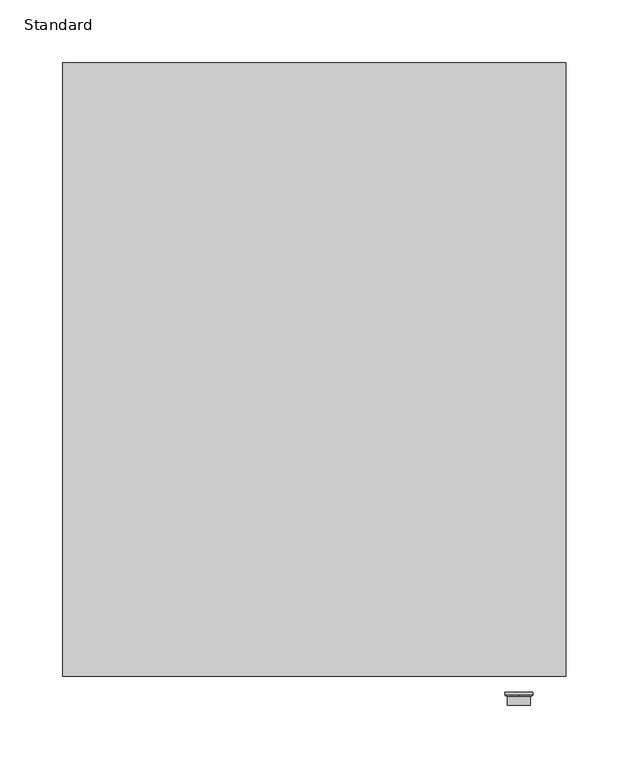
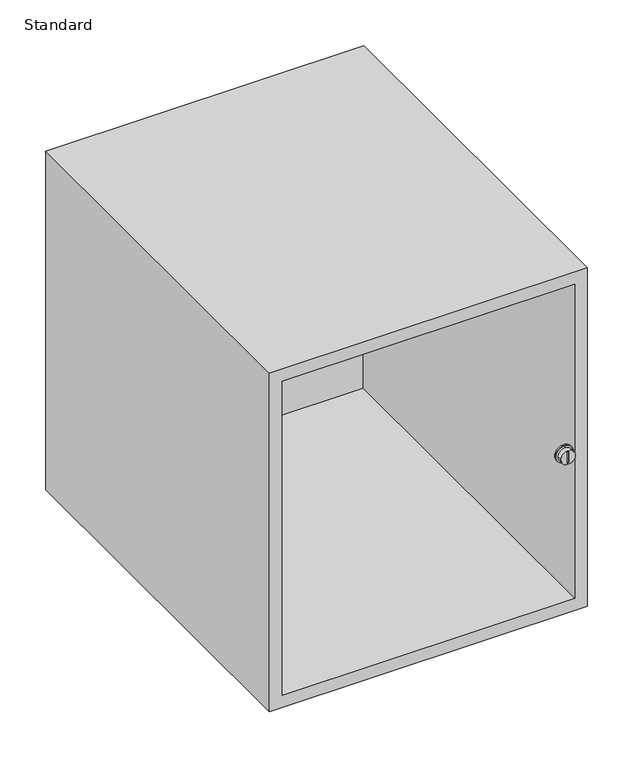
"""IFC4 building model written with IfcOpenShell, lengths in millimetres: furniture geometry, X_Locker-Duracube-Bay : Standard."""

import ifcopenshell
import ifcopenshell.guid

model = None  # the IFC model being written
_history = None  # IfcOwnerHistory: only IFC2X3 demands one
_inside = {}  # id of a spatial element -> (the spatial element, [elements in it])
_under = {}  # id of a project, library or spatial element -> (it, [spatial elements below it])
_declared = {}  # id of a project -> (the project, [libraries it declares])
_typed = {}  # id of a type object -> (the type object, [elements of that type])
_made_of = {}  # id of a material, layer set ... -> (it, [elements and type objects made of it])


def new_model(schema):
    """Start an empty IFC model of exactly this schema.

    Asked for "IFC4X3", IfcOpenShell would pick the latest addendum, in which some entities
    have other attributes; the version numbers below select the first issue.
    IFC2X3 requires an IfcOwnerHistory on every rooted entity: one is made here for all.
    """
    global model, _history
    if schema == "IFC4X3":
        model = ifcopenshell.file(schema_version=(4, 3, 0, 0))
    else:
        model = ifcopenshell.file(schema=schema)
    _inside.clear()
    _under.clear()
    _declared.clear()
    _typed.clear()
    _made_of.clear()
    _history = None
    if model.schema == "IFC2X3":
        org = make("IfcOrganization", Name="unknown")
        user = make(
            "IfcPersonAndOrganization",
            ThePerson=make("IfcPerson", FamilyName="unknown"),
            TheOrganization=org,
        )
        app = make(
            "IfcApplication",
            ApplicationDeveloper=org,
            Version="unknown",
            ApplicationFullName="unknown",
            ApplicationIdentifier="unknown",
        )
        _history = make(
            "IfcOwnerHistory",
            OwningUser=user,
            OwningApplication=app,
            ChangeAction="ADDED",
            CreationDate=0,
        )
    return model


def make(cls, **values):
    """One entity of the class cls with the attributes given. An attribute that is None is left unset."""
    return model.create_entity(
        cls, **{name: value for name, value in values.items() if value is not None}
    )


def rooted(cls, **values):
    """An entity with a GlobalId (a new one), such as an element, a storey or a relation."""
    return make(cls, GlobalId=ifcopenshell.guid.new(), OwnerHistory=_history, **values)


def si_unit(unit_type, name, prefix=None):
    """IfcSIUnit, for example si_unit("LENGTHUNIT", "METRE", prefix="MILLI")."""
    return make("IfcSIUnit", UnitType=unit_type, Prefix=prefix, Name=name)


def assignment(units):
    """IfcUnitAssignment: the units of a project."""
    return None if units is None else make("IfcUnitAssignment", Units=units)


def point(xyz):
    """IfcCartesianPoint."""
    return None if xyz is None else make("IfcCartesianPoint", Coordinates=xyz)


def direction(xyz):
    """IfcDirection."""
    return None if xyz is None else make("IfcDirection", DirectionRatios=xyz)


def frame(location, z_axis=None, x_axis=None):
    """IfcAxis2Placement3D, a coordinate frame: its origin and axes. An axis left out is left unset."""
    return make(
        "IfcAxis2Placement3D",
        Location=point(location),
        Axis=direction(z_axis),
        RefDirection=direction(x_axis),
    )


def frame_2d(location, x_axis=None):
    """IfcAxis2Placement2D, a coordinate frame in the plane: its origin and x axis."""
    return make(
        "IfcAxis2Placement2D", Location=point(location), RefDirection=direction(x_axis)
    )


def origin():
    """The frame at (0, 0, 0) with its axes left unset."""
    return frame((0.0, 0.0, 0.0))


def place(relative_to, where):
    """IfcLocalPlacement: puts the frame where relative to a parent placement (None: the world)."""
    return make(
        "IfcLocalPlacement", PlacementRelTo=relative_to, RelativePlacement=where
    )


def context(
    kind, dimensions, precision=None, world=None, true_north=None, identifier=None
):
    """IfcGeometricRepresentationContext, for example the 3D "Model" context."""
    return make(
        "IfcGeometricRepresentationContext",
        ContextIdentifier=identifier,
        ContextType=kind,
        CoordinateSpaceDimension=dimensions,
        Precision=precision,
        WorldCoordinateSystem=world,
        TrueNorth=true_north,
    )


def project(units=None, contexts=None):
    """IfcProject with its units and contexts."""
    return rooted(
        "IfcProject",
        Name="project",
        RepresentationContexts=contexts,
        UnitsInContext=assignment(units),
    )


def spatial(cls, under=None, at=None, **own):
    """A site, building, storey or space (cls), placed at a placement, below another one or the project."""
    s = rooted(cls, ObjectPlacement=at, **own)
    if under is not None:
        _under.setdefault(under.id(), (under, []))[1].append(s)
    return s


def polyline(points):
    """IfcPolyline through the points."""
    return make("IfcPolyline", Points=[point(p) for p in points])


def circle_curve(where, radius):
    """IfcCircle in the frame where."""
    return make("IfcCircle", Position=where, Radius=radius)


def ellipse_curve(where, semi_axis1, semi_axis2):
    """IfcEllipse in the frame where."""
    return make(
        "IfcEllipse", Position=where, SemiAxis1=semi_axis1, SemiAxis2=semi_axis2
    )


def trimmed(basis, trim1, trim2, sense, master):
    """IfcTrimmedCurve: the piece of a basis curve between two trims."""
    return make(
        "IfcTrimmedCurve",
        BasisCurve=basis,
        Trim1=trim1,
        Trim2=trim2,
        SenseAgreement=sense,
        MasterRepresentation=master,
    )


def segment(curve, same_sense, transition):
    """IfcCompositeCurveSegment."""
    return make(
        "IfcCompositeCurveSegment",
        Transition=transition,
        SameSense=same_sense,
        ParentCurve=curve,
    )


def composite_curve(segments, self_intersect=None):
    """IfcCompositeCurve: segments joined end to end."""
    return make("IfcCompositeCurve", Segments=segments, SelfIntersect=self_intersect)


def outline(outer, holes=None, kind="AREA"):
    """IfcArbitraryClosedProfileDef: a profile drawn as a closed curve; with holes, ...WithVoids."""
    if holes is None:
        return make("IfcArbitraryClosedProfileDef", ProfileType=kind, OuterCurve=outer)
    return make(
        "IfcArbitraryProfileDefWithVoids",
        ProfileType=kind,
        OuterCurve=outer,
        InnerCurves=holes,
    )


def extrude(swept, where, along, depth):
    """IfcExtrudedAreaSolid: the profile swept, set in the frame where, extruded along a direction by depth."""
    return make(
        "IfcExtrudedAreaSolid",
        SweptArea=swept,
        Position=where,
        ExtrudedDirection=direction(along),
        Depth=depth,
    )


def faces_of(points, faces, orient=None, outer=None):
    """IfcFace entities. A face is a list of loops; a loop is a list of indices into points, from 0.

    orient and outer hold one flag for each loop. By default every Orientation is true, the
    first loop of a face is its IfcFaceOuterBound and the others are IfcFaceBound.
    """
    made = []
    for i, loops in enumerate(faces):
        bounds = []
        for j, loop in enumerate(loops):
            is_outer = j == 0 if outer is None else outer[i][j]
            bounds.append(
                make(
                    "IfcFaceOuterBound" if is_outer else "IfcFaceBound",
                    Bound=make("IfcPolyLoop", Polygon=[points[k] for k in loop]),
                    Orientation=True if orient is None else orient[i][j],
                )
            )
        made.append(make("IfcFace", Bounds=bounds))
    return made


def faceted_brep(points, faces, orient=None, outer=None, voids=None):
    """IfcFacetedBrep: a solid bounded by flat faces; with voids (closed shells), ...WithVoids."""
    shared = [point(p) for p in points]
    hull = make("IfcClosedShell", CfsFaces=faces_of(shared, faces, orient, outer))
    if voids is None:
        return make("IfcFacetedBrep", Outer=hull)
    return make(
        "IfcFacetedBrepWithVoids",
        Outer=hull,
        Voids=[
            make(cls, CfsFaces=faces_of(shared, fs, o, b)) for cls, fs, o, b in voids
        ],
    )


def shape(context_of_items, identifier, shape_type, items):
    """IfcShapeRepresentation: the items that make up one representation, for example the "Body"."""
    return make(
        "IfcShapeRepresentation",
        ContextOfItems=context_of_items,
        RepresentationIdentifier=identifier,
        RepresentationType=shape_type,
        Items=items,
    )


def source(mapping_origin, context_of_items, identifier, shape_type, items):
    """IfcRepresentationMap: a shape defined once, which mapped items show again and again."""
    return make(
        "IfcRepresentationMap",
        MappingOrigin=mapping_origin,
        MappedRepresentation=shape(context_of_items, identifier, shape_type, items),
    )


def transform(
    local_origin,
    x_axis=None,
    y_axis=None,
    z_axis=None,
    scale=None,
    scale2=None,
    scale3=None,
    uniform=True,
):
    """IfcCartesianTransformationOperator3D, or its non-uniform kind. x_axis, y_axis, z_axis: its Axis1, 2, 3."""
    if uniform:
        return make(
            "IfcCartesianTransformationOperator3D",
            Axis1=direction(x_axis),
            Axis2=direction(y_axis),
            LocalOrigin=point(local_origin),
            Scale=scale,
            Axis3=direction(z_axis),
        )
    return make(
        "IfcCartesianTransformationOperator3DnonUniform",
        Axis1=direction(x_axis),
        Axis2=direction(y_axis),
        LocalOrigin=point(local_origin),
        Scale=scale,
        Axis3=direction(z_axis),
        Scale2=scale2,
        Scale3=scale3,
    )


def mapped(mapping_source, mapping_target):
    """IfcMappedItem: shows the shape of a source again, moved by a transform."""
    return make(
        "IfcMappedItem", MappingSource=mapping_source, MappingTarget=mapping_target
    )


def made_of(thing, what):
    """Note that an element or type object is made of a material, layer set ...; save() writes the relation."""
    if what is not None:
        _made_of.setdefault(what.id(), (what, []))[1].append(thing)
    return thing


def element(
    cls,
    number,
    at=None,
    inside=None,
    cuts=None,
    type_object=None,
    material=None,
    context=None,
    identifier="Body",
    shape_type=None,
    held_by="IfcProductDefinitionShape",
    body=None,
    shapes=None,
    **own,
):
    """One element of the class cls, such as IfcWall. Its Tag is "e" and its number.

    at: its placement. inside: the storey or other place that contains it. cuts: it is an
    opening in that element (IfcRelVoidsElement). A single representation is given by context,
    identifier, shape_type and body (its items); several are given by shapes. held_by: the class
    of the entity that holds the representations. save() writes the other relations.
    """
    e = rooted(cls, Tag="e%d" % number, ObjectPlacement=at, **own)
    if body is not None:
        shapes = [shape(context, identifier, shape_type, body)]
    if shapes is not None:
        e.Representation = make(held_by, Representations=shapes)
    if inside is not None:
        _inside.setdefault(inside.id(), (inside, []))[1].append(e)
    if cuts is not None:
        rooted(
            "IfcRelVoidsElement", RelatingBuildingElement=cuts, RelatedOpeningElement=e
        )
    if type_object is not None:
        _typed.setdefault(type_object.id(), (type_object, []))[1].append(e)
    return made_of(e, material)


def aggregate(whole, parts):
    """IfcRelAggregates: a whole, such as a stair, and the parts it consists of."""
    return rooted("IfcRelAggregates", RelatingObject=whole, RelatedObjects=parts)


def save(model, path):
    """Write the relations noted so far, then the file.

    IfcRelAggregates (storeys below a building ...), IfcRelContainedInSpatialStructure (elements
    in a storey), IfcRelDefinesByType, IfcRelAssociatesMaterial and IfcRelDeclares: one each for
    every whole, place, type object, material and project.
    """
    for whole, parts in _under.values():
        aggregate(whole, parts)
    for where, things in _inside.values():
        rooted(
            "IfcRelContainedInSpatialStructure",
            RelatedElements=things,
            RelatingStructure=where,
        )
    for kind, things in _typed.values():
        rooted("IfcRelDefinesByType", RelatedObjects=things, RelatingType=kind)
    for what, things in _made_of.values():
        rooted("IfcRelAssociatesMaterial", RelatedObjects=things, RelatingMaterial=what)
    for by, libraries in _declared.values():
        rooted("IfcRelDeclares", RelatingContext=by, RelatedDefinitions=libraries)
    model.write(path)


def plane_surface(at):
    """IfcPlane: the flat surface through the origin of the frame at, square to its z axis."""
    return make("IfcPlane", Position=at)


def revolved_surface(curve, axis_point, axis_direction):
    """IfcSurfaceOfRevolution: the curve turned about the line through axis_point along axis_direction."""
    return make(
        "IfcSurfaceOfRevolution",
        SweptCurve=make("IfcArbitraryOpenProfileDef", ProfileType="CURVE", Curve=curve),
        AxisPosition=make("IfcAxis1Placement", Location=point(axis_point), Axis=direction(axis_direction)),
    )


def advanced_brep(points, edges, surfaces, faces):
    """IfcAdvancedBrep: a solid bounded by faces that lie on surfaces and meet in shared edges.

    An edge is (start, end): straight between two places in points (the first is 0);
    or (start, end, curve); or (start, end, curve, False) where it runs against its curve.
    A face is (place in surfaces, loops), or (place, loops, False) where it looks against
    its surface's normal. A loop lists edges by number (the first is 1), with a minus sign
    where the edge is run from its end to its start. The first loop is the outer one.
    """
    corners = [point(p) for p in points]
    vertices = [make("IfcVertexPoint", VertexGeometry=c) for c in corners]
    made = []
    for start, end, *more in edges:
        made.append(
            make(
                "IfcEdgeCurve",
                EdgeStart=vertices[start],
                EdgeEnd=vertices[end],
                EdgeGeometry=more[0] if more else make("IfcPolyline", Points=[corners[start], corners[end]]),
                SameSense=more[1] if len(more) > 1 else True,
            )
        )
    hull = []
    for where, loops, *sense in faces:
        bounds = []
        for j, loop in enumerate(loops):
            ring = [make("IfcOrientedEdge", EdgeElement=made[abs(k) - 1], Orientation=k > 0) for k in loop]
            bounds.append(
                make(
                    "IfcFaceOuterBound" if j == 0 else "IfcFaceBound",
                    Bound=make("IfcEdgeLoop", EdgeList=ring),
                    Orientation=True,
                )
            )
        hull.append(make("IfcAdvancedFace", Bounds=bounds, FaceSurface=surfaces[where], SameSense=sense[0] if sense else True))
    return make("IfcAdvancedBrep", Outer=make("IfcClosedShell", CfsFaces=hull))


def standard_f60cbfea(model_context):
    return source(origin(), model_context, "Body", "SolidModel", [
        extrude(outline(composite_curve([segment(trimmed(circle_curve(frame_2d((225.0, 207.2003264)), 11.0), [point((225.0, 196.2003264))], [point((225.0, 218.2003264))], False, "CARTESIAN"), True, "CONTINUOUS"), segment(trimmed(circle_curve(frame_2d((225.0, 207.2003264)), 11.0), [point((225.0, 218.2003264))], [point((225.0, 196.2003264))], False, "CARTESIAN"), True, "CONTINUOUS")], self_intersect=False)), frame((0.0, -502.0, 0.0), z_axis=(0.0, 1.0, 0.0), x_axis=(0.0, 0.0, 1.0)), (0.0, 0.0, 1.0), 2.0),
        advanced_brep(
        [(207.2003264, -503.0, 216.0), (207.2003264, -503.0, 234.0), (207.2003264, -502.0, 236.0), (207.2003264, -502.0, 214.0), (207.2003264, -502.0, 216.0), (207.2003264, -502.0, 234.0)],
        [
            (0, 1, circle_curve(frame((207.2003264, -503.0, 225.0), z_axis=(0.0, 1.0, 0.0), x_axis=(0.0, 0.0, 1.0)), 9.0)),
            (1, 2, ellipse_curve(frame((207.2003264, -502.0, 234.0), z_axis=(-1.0, 0.0, 0.0), x_axis=(0.0, 0.0, 1.0)), 2.0, 1.0)),
            (2, 3, circle_curve(frame((207.2003264, -502.0, 225.0), z_axis=(0.0, -1.0, 0.0), x_axis=(0.0, 0.0, 1.0)), 11.0)),
            (3, 0, ellipse_curve(frame((207.2003264, -502.0, 216.0), z_axis=(-1.0, 0.0, 0.0), x_axis=(0.0, 0.0, -1.0)), 2.0, 1.0)),
            (1, 0, circle_curve(frame((207.2003264, -503.0, 225.0), z_axis=(0.0, 1.0, 0.0), x_axis=(0.0, 0.0, 1.0)), 9.0)),
            (3, 2, circle_curve(frame((207.2003264, -502.0, 225.0), z_axis=(0.0, -1.0, 0.0), x_axis=(0.0, 0.0, 1.0)), 11.0)),
            (4, 5, circle_curve(frame((207.2003264, -502.0, 225.0), z_axis=(0.0, 1.0, 0.0), x_axis=(0.0, 0.0, 1.0)), 9.0)),
            (5, 1),
            (0, 4),
            (5, 4, circle_curve(frame((207.2003264, -502.0, 225.0), z_axis=(0.0, 1.0, 0.0), x_axis=(0.0, 0.0, 1.0)), 9.0)),
            (2, 5),
            (4, 3),
        ],
        [
            revolved_surface(trimmed(ellipse_curve(frame((207.2003264, -502.0, 234.0), z_axis=(1.0, 0.0, 0.0), x_axis=(0.0, 0.0, 1.0)), 2.0, 1.0), [point((207.2003264, -502.0, 236.0))], [point((207.2003264, -503.0, 234.0))], True, "CARTESIAN"), (207.2003264, -502.0, 225.0), (0.0, -1.0, 0.0)),
            revolved_surface(polyline([(207.2003264, -503.0, 234.0), (207.2003264, -502.0, 234.0)]), (207.2003264, -502.0, 225.0), (0.0, -1.0, 0.0)),
            plane_surface(frame((207.2003264, -502.0, 225.0), z_axis=(0.0, 1.0, 0.0), x_axis=(0.0, 0.0, 1.0))),
        ],
        [
            (0, [[1, 2, 3, 4]]),
            (0, [[5, -4, 6, -2]]),
            (1, [[7, 8, -1, 9]]),
            (1, [[10, -9, -5, -8]]),
            (2, [[-3, 11, -7, 12]]),
            (2, [[-6, -12, -10, -11]]),
        ],
    ),
        extrude(outline(polyline([(208.2003264, -509.0), (206.2003264, -509.0), (206.2003264, -507.0), (208.2003264, -507.0), (208.2003264, -509.0)])), frame((0.0, 0.0, 218.0), z_axis=(0.0, 0.0, 1.0), x_axis=(1.0, 0.0, 0.0)), (0.0, 0.0, 1.0), 14.0),
        extrude(outline(composite_curve([segment(trimmed(circle_curve(frame_2d((225.0, 207.2003264)), 9.0), [point((225.0, 198.2003264))], [point((225.0, 216.2003264))], False, "CARTESIAN"), True, "CONTINUOUS"), segment(trimmed(circle_curve(frame_2d((225.0, 207.2003264)), 9.0), [point((225.0, 216.2003264))], [point((225.0, 198.2003264))], False, "CARTESIAN"), True, "CONTINUOUS")], self_intersect=False), holes=[polyline([(232.0, 208.2003264), (218.0, 208.2003264), (218.0, 206.2003264), (232.0, 206.2003264), (232.0, 208.2003264)])]), frame((0.0, -510.0, 0.0), z_axis=(0.0, 1.0, 0.0), x_axis=(0.0, 0.0, 1.0)), (0.0, 0.0, 1.0), 8.0),
        faceted_brep([(244.7003264, -487.0, 450.0), (-155.2996736, -487.0, 450.0), (-155.2996736, -487.0, 0.0), (244.7003264, -487.0, 0.0), (228.7003264, -487.0, 434.0), (228.7003264, -487.0, 16.0), (-139.2996736, -487.0, 16.0), (-139.2996736, -487.0, 434.0), (244.7003264, 0.0, 450.0), (244.7003264, 0.0, 0.0), (-155.2996736, 0.0, 0.0), (-155.2996736, 0.0, 450.0), (228.7003264, 0.0, 434.0), (-139.2996736, 0.0, 434.0), (-139.2996736, 0.0, 16.0), (228.7003264, 0.0, 16.0), (228.7003264, -26.0, 434.0), (228.7003264, -26.0, 16.0), (228.7003264, -10.0, 16.0), (228.7003264, -10.0, 434.0), (-139.2996736, -26.0, 16.0), (-139.2996736, -10.0, 16.0), (-139.2996736, -26.0, 434.0), (-139.2996736, -10.0, 434.0)], [[[0, 1, 2, 3], [4, 5, 6, 7]], [[8, 9, 10, 11], [12, 13, 14, 15]], [[1, 0, 8, 11]], [[2, 1, 11, 10]], [[3, 2, 10, 9]], [[0, 3, 9, 8]], [[5, 4, 16, 17]], [[12, 15, 18, 19]], [[6, 5, 17, 20]], [[15, 14, 21, 18]], [[7, 6, 20, 22]], [[14, 13, 23, 21]], [[4, 7, 22, 16]], [[13, 12, 19, 23]], [[17, 16, 22, 20]], [[19, 18, 21, 23]]]),
    ])


if __name__ == "__main__":
    model = new_model("IFC4")
    model_context = context("Model", 3, world=origin())
    ifc_project = project(units=[si_unit("LENGTHUNIT", "METRE", prefix="MILLI")], contexts=[model_context])
    site = spatial("IfcSite", under=ifc_project)
    building = spatial("IfcBuilding", under=site)
    placement = place(None, origin())
    standard_shape = standard_f60cbfea(model_context)
    element("IfcFurniture", 1, ObjectType="X_Locker-Duracube-Bay : Standard", at=placement, inside=building, context=model_context, shape_type="MappedRepresentation", body=[
        mapped(standard_shape, transform((0.0, 0.0, 0.0), x_axis=(1.0, 0.0, 0.0), y_axis=(0.0, 1.0, 0.0), z_axis=(0.0, 0.0, 1.0))),
    ])
    save(model, "model.ifc")
